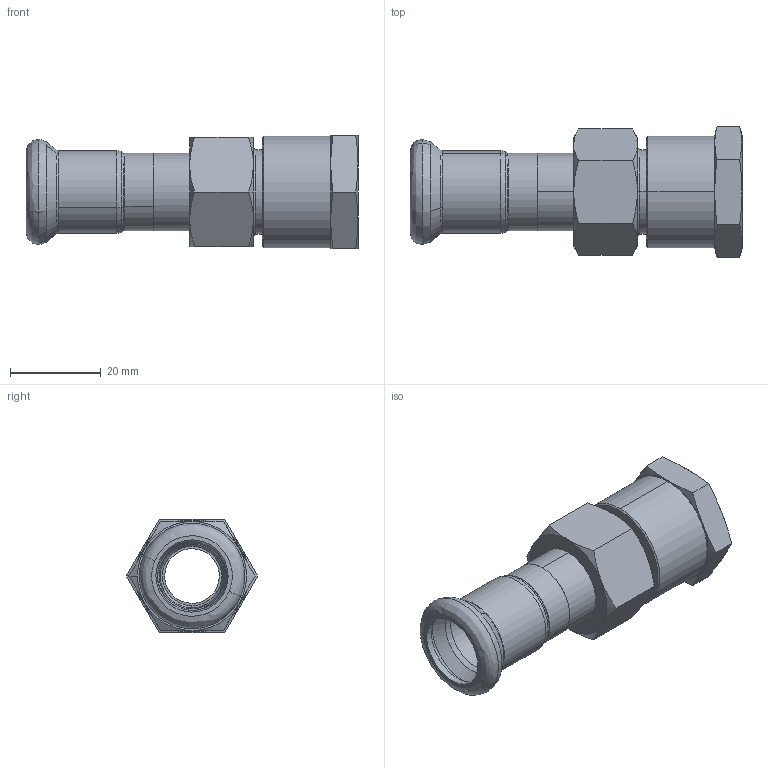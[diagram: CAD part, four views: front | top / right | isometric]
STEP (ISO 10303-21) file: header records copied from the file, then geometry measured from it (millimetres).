
FILE_DESCRIPTION (( 'STEP AP203' ), '1' );
FILE_NAME ('GDA5451.STEP', '2019-01-17T07:18:44', ( '' ), ( '' ), 'SwSTEP 2.0', 'SolidWorks 2015', '' );
FILE_SCHEMA (( 'CONFIG_CONTROL_DESIGN' ));
Length unit declared in the file: millimetre
Products named in the file (6): 囀俋佪蛌遙諉芛0.5-0.5; GDA5451; Imported; ZL-Ⅰ-01×_; 15｡ﾁ_; T-ｉ-01-15
Assembly tree (5 placements, depth 2):
  GDA5451
    15｡ﾁ_
    ZL-Ⅰ-01×_
    T-ｉ-01-15
    囀俋佪蛌遙諉芛0.5-0.5
    Imported
Bounding box: 73 x 28.87 x 25 mm (x, y, z)
Volume: 13839.6 mm3; surface area: 12427.1 mm2
Topology: 5 solids, 5 shells, 136 faces, 292 edges, 173 vertices
Faces by surface type: cone 51, cylinder 36, plane 29, bspline 20
Entity records: 4871 total; most frequent: CARTESIAN_POINT 1333, DIRECTION 653, ORIENTED_EDGE 584, EDGE_CURVE 292, AXIS2_PLACEMENT_3D 289, VERTEX_POINT 173, CIRCLE 165, EDGE_LOOP 153
